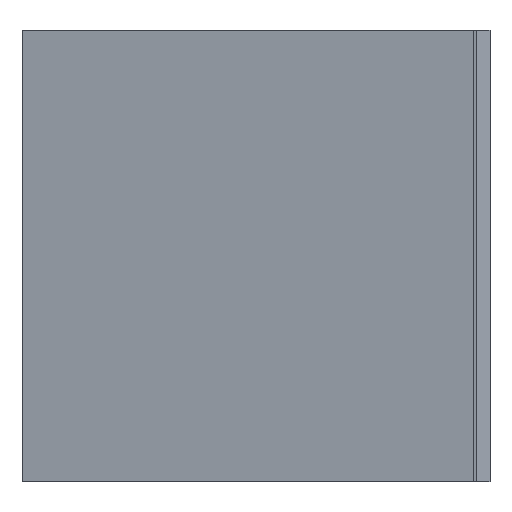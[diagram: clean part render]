
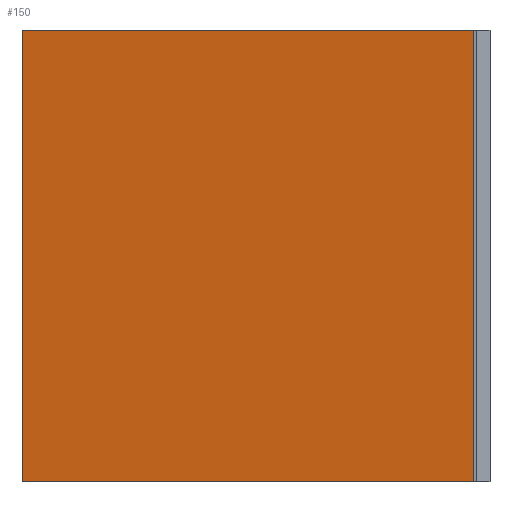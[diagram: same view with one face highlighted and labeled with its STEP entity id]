
A CAD part, left-side view. The second image highlights one B-rep face of the part: STEP entity #150.
In plain terms, the highlighted planar face has unit normal (0.982, -0.191, 0).
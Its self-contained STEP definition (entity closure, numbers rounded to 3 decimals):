
#98=CARTESIAN_POINT('Vertex',(20.,0.,0.)) ;
#101=CARTESIAN_POINT('Line Origine',(20.,0.,67.)) ;
#105=CARTESIAN_POINT('Vertex',(20.,0.,134.)) ;
#120=CARTESIAN_POINT('Axis2P3D Location',(20.,0.,0.)) ;
#125=CARTESIAN_POINT('Line Origine',(33.,67.,0.)) ;
#129=CARTESIAN_POINT('Vertex',(46.,134.,0.)) ;
#132=CARTESIAN_POINT('Line Origine',(46.,134.,67.)) ;
#136=CARTESIAN_POINT('Vertex',(46.,134.,134.)) ;
#139=CARTESIAN_POINT('Line Origine',(33.,67.,134.)) ;
#102=DIRECTION('Vector Direction',(0.,0.,1.)) ;
#121=DIRECTION('Axis2P3D Direction',(0.982,-0.19,0.)) ;
#122=DIRECTION('Axis2P3D XDirection',(0.19,0.982,0.)) ;
#126=DIRECTION('Vector Direction',(0.19,0.982,0.)) ;
#133=DIRECTION('Vector Direction',(0.,0.,1.)) ;
#140=DIRECTION('Vector Direction',(0.19,0.982,0.)) ;
#123=AXIS2_PLACEMENT_3D('Plane Axis2P3D',#120,#121,#122) ;
#145=ORIENTED_EDGE('',*,*,#107,.F.) ;
#146=ORIENTED_EDGE('',*,*,#131,.T.) ;
#147=ORIENTED_EDGE('',*,*,#138,.T.) ;
#148=ORIENTED_EDGE('',*,*,#143,.F.) ;
#103=VECTOR('Line Direction',#102,1.) ;
#127=VECTOR('Line Direction',#126,1.) ;
#134=VECTOR('Line Direction',#133,1.) ;
#141=VECTOR('Line Direction',#140,1.) ;
#150=ADVANCED_FACE('Extrude.1',(#149),#124,.T.) ;
#107=EDGE_CURVE('',#99,#106,#104,.T.) ;
#131=EDGE_CURVE('',#99,#130,#128,.T.) ;
#138=EDGE_CURVE('',#130,#137,#135,.T.) ;
#143=EDGE_CURVE('',#106,#137,#142,.T.) ;
#144=EDGE_LOOP('',(#145,#146,#147,#148)) ;
#149=FACE_OUTER_BOUND('',#144,.T.) ;
#104=LINE('Line',#101,#103) ;
#128=LINE('Line',#125,#127) ;
#135=LINE('Line',#132,#134) ;
#142=LINE('Line',#139,#141) ;
#124=PLANE('',#123) ;
#99=VERTEX_POINT('',#98) ;
#106=VERTEX_POINT('',#105) ;
#130=VERTEX_POINT('',#129) ;
#137=VERTEX_POINT('',#136) ;
